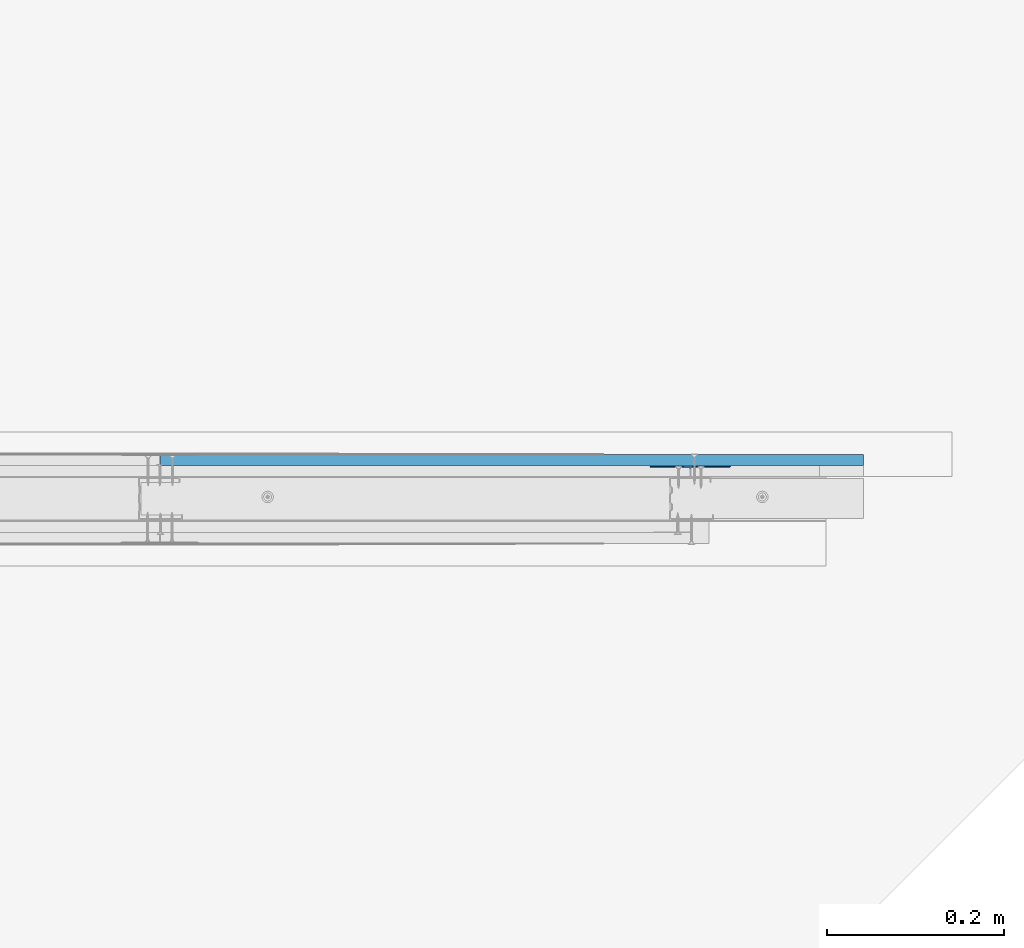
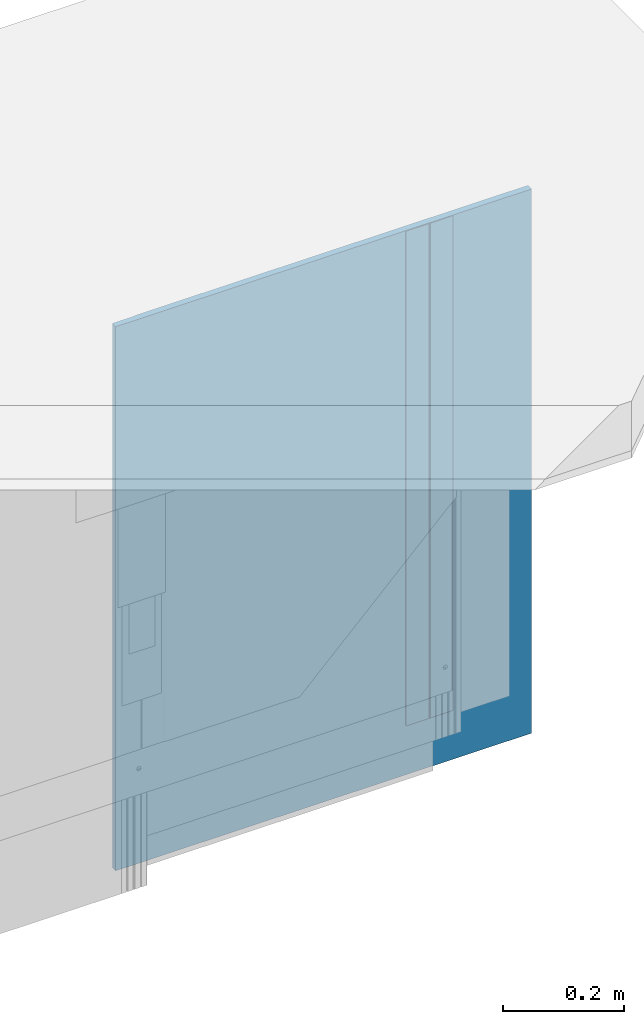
# One storey, part 3 of 37: 2 walls.
"""IFC2X3 building model written with IfcOpenShell, lengths in millimetres."""

from ifc_helpers import new_model, entity, si_unit, converted_unit, direction, frame, origin, origin_with_axes, place, context, project, spatial, faceted_brep, element, save


model = new_model("IFC2X3")

# Units and contexts
model_context = context("Model", 3, precision=1e-05, world=origin(), true_north=direction((0.0, 1.0, 0.0)))
ifc_project = project(units=[si_unit("LENGTHUNIT", "METRE", prefix="MILLI"), si_unit("AREAUNIT", "SQUARE_METRE"), si_unit("VOLUMEUNIT", "CUBIC_METRE"), converted_unit("PLANEANGLEUNIT", "DEGREE", entity("IfcPlaneAngleMeasure", 0.01745), si_unit("PLANEANGLEUNIT", "RADIAN"), dimensions=[0, 0, 0, 0, 0, 0, 0]), si_unit("SOLIDANGLEUNIT", "STERADIAN"), si_unit("MASSUNIT", "GRAM"), si_unit("TIMEUNIT", "SECOND"), si_unit("THERMODYNAMICTEMPERATUREUNIT", "DEGREE_CELSIUS"), si_unit("LUMINOUSINTENSITYUNIT", "LUMEN")], contexts=[model_context])

# Site, building, storey
site_placement = place(None, origin_with_axes())
site = spatial("IfcSite", under=ifc_project, at=site_placement, Name="Default Site", CompositionType="ELEMENT")
building_placement = place(site_placement, origin_with_axes())
building = spatial("IfcBuilding", under=site, at=building_placement, Name="Default Building", CompositionType="ELEMENT")
storey_placement = place(building_placement, origin_with_axes())
storey = spatial("IfcBuildingStorey", under=building, at=storey_placement, Name="Default Building Storey", CompositionType="ELEMENT", Elevation=0.0)

# Walls
wall_1_placement = place(storey_placement, frame((3984.303078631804, -1356.465798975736, 1090.631819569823), z_axis=(0.0, 0.0, -1.0), x_axis=(1.0, 0.0, 0.0)))
element("IfcWall", 1, at=wall_1_placement, inside=storey, Name="Dedykowana masa szpachlowa Rigips - konstrukcyjna", context=model_context, shape_type="Brep", body=[
    faceted_brep([(-737.4838396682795, -3387.669590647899, 706.8233321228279), (-737.4592163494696, -3387.356721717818, 706.8233321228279), (-737.4345930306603, -3387.669590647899, 706.8233321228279), (-737.3613293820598, -3387.974755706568, 706.8233321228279), (-737.2412293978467, -3388.264702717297, 706.8233321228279), (-737.0772503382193, -3388.532292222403, 706.8233321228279), (-736.8734299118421, -3388.770935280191, 706.8233321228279), (-736.6347868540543, -3388.974755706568, 706.8233321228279), (-736.3671973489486, -3389.138734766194, 706.8233321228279), (-736.0772503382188, -3389.258834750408, 706.8233321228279), (-735.7720852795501, -3389.332098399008, 706.8233321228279), (-735.4592163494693, -3389.356721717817, 706.8233321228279), (-692.4592163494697, -3389.356721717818, 706.8233321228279), (-691.4592163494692, -3390.556721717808, 706.8233321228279), (-782.4592163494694, -3390.556721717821, 706.8233321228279), (-782.4592163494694, -3389.356721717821, 706.8233321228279), (-739.4592163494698, -3389.356721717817, 706.8233321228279), (-739.146347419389, -3389.332098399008, 706.8233321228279), (-738.8411823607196, -3389.258834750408, 706.8233321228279), (-738.5512353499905, -3389.138734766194, 706.8233321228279), (-738.2836458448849, -3388.974755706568, 706.8233321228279), (-738.045002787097, -3388.770935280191, 706.8233321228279), (-737.8411823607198, -3388.532292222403, 706.8233321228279), (-737.6772033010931, -3388.264702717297, 706.8233321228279), (-737.5571033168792, -3387.974755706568, 706.8233321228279), (-691.4592163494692, -3390.556721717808, -293.178249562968), (-692.4592163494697, -3389.356721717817, -293.178249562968), (-735.4592163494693, -3389.356721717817, -293.178249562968), (-735.7720852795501, -3389.332098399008, -293.178249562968), (-736.0772503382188, -3389.258834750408, -293.178249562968), (-736.3671973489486, -3389.138734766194, -293.178249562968), (-736.6347868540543, -3388.974755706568, -293.178249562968), (-736.8734299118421, -3388.77093528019, -293.178249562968), (-737.0772503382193, -3388.532292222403, -293.178249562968), (-737.2412293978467, -3388.264702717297, -293.178249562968), (-737.3613293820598, -3387.974755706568, -293.178249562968), (-737.4345930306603, -3387.669590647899, -293.178249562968), (-737.4592163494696, -3387.356721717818, -293.178249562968), (-737.4838396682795, -3387.669590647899, -293.178249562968), (-737.5571033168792, -3387.974755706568, -293.178249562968), (-737.6772033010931, -3388.264702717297, -293.178249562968), (-737.8411823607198, -3388.532292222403, -293.178249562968), (-738.045002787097, -3388.77093528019, -293.178249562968), (-738.2836458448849, -3388.974755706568, -293.178249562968), (-738.5512353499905, -3389.138734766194, -293.178249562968), (-738.8411823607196, -3389.258834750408, -293.178249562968), (-739.146347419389, -3389.332098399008, -293.178249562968), (-739.4592163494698, -3389.356721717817, -293.178249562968), (-782.4592163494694, -3389.356721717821, -293.178249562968), (-782.4592163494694, -3390.556721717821, -293.178249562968)], [[[0, 1, 2, 3, 4, 5, 6, 7, 8, 9, 10, 11, 12, 13, 14, 15, 16, 17, 18, 19, 20, 21, 22, 23, 24]], [[25, 26, 27, 28, 29, 30, 31, 32, 33, 34, 35, 36, 37, 38, 39, 40, 41, 42, 43, 44, 45, 46, 47, 48, 49]], [[26, 12, 11, 27]], [[10, 9, 29, 28]], [[28, 27, 11, 10]], [[8, 30, 29, 9]], [[7, 6, 32, 31]], [[31, 30, 8, 7]], [[5, 4, 34, 33]], [[33, 32, 6, 5]], [[3, 35, 34, 4]], [[2, 1, 37, 36]], [[36, 35, 3, 2]], [[0, 24, 39, 38]], [[38, 37, 1, 0]], [[23, 40, 39, 24]], [[22, 21, 42, 41]], [[41, 40, 23, 22]], [[20, 19, 44, 43]], [[43, 42, 21, 20]], [[18, 45, 44, 19]], [[17, 16, 47, 46]], [[46, 45, 18, 17]], [[47, 16, 15, 48]], [[48, 15, 14, 49]], [[49, 14, 13, 25]], [[25, 13, 12, 26]]]),
])
wall_2_placement = place(storey_placement, frame((2647.429648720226, 2034.640922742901, 333.8084874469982), z_axis=(0.0, 0.0, -1.0), x_axis=(1.0, 0.0, 0.0)))
element("IfcWall", 2, at=wall_2_placement, inside=storey, Name="Płyta gipsowo-kartonowa RIGIPS PRO (4PRO™)", context=model_context, shape_type="Brep", body=[
    faceted_brep([(795.6109695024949, -12.49999999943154, 49.99999999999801), (795.6109695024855, 5.40711653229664e-10, 49.99999999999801), (795.6109695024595, 5.371020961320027e-10, -1050.001581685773), (795.6109695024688, -12.49999999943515, -1050.001581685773), (44.99999999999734, -12.50000000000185, 50.00000000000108), (40.99999999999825, -11.50000000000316, 50.00000000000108), (0.9999999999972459, -11.50000000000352, 50.00000000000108), (0.7411809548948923, -11.46592582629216, 50.00000000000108), (0.4999999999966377, -11.36602540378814, 50.00000000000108), (0.2928932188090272, -11.20710678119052, 50.00000000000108), (0.1339745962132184, -11.00000000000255, 50.00000000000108), (0.0340741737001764, -10.75881904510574, 50.00000000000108), (-3.248601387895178e-12, -10.50000000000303, 50.00000000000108), (-1.082867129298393e-12, 3.609557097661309e-13, 50.00000000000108), (44.99999999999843, -12.50000000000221, -1050.001581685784), (40.99999999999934, -11.50000000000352, -1050.001581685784), (0.9999999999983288, -11.50000000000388, -1050.001581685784), (0.7411809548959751, -11.46592582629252, -1050.001581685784), (0.4999999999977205, -11.3660254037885, -1050.001581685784), (0.29289321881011, -11.20710678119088, -1050.001581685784), (0.1339745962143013, -11.00000000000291, -1050.001581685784), (0.03407417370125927, -10.7588190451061, -1050.001581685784), (-2.165734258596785e-12, -10.50000000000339, -1050.001581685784), (0.0, 0.0, -1050.001581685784)], [[[0, 1, 2, 3]], [[0, 4, 5, 6, 7, 8, 9, 10, 11, 12, 13, 1]], [[3, 14, 4, 0]], [[5, 4, 14, 15]], [[6, 5, 15, 16]], [[7, 6, 16, 17]], [[8, 7, 17, 18]], [[9, 8, 18, 19]], [[10, 9, 19, 20]], [[11, 10, 20, 21]], [[12, 11, 21, 22]], [[13, 12, 22, 23]], [[2, 1, 13, 23]], [[14, 3, 2, 23, 22, 21, 20, 19, 18, 17, 16, 15]]]),
])

save(model, "model.ifc")
